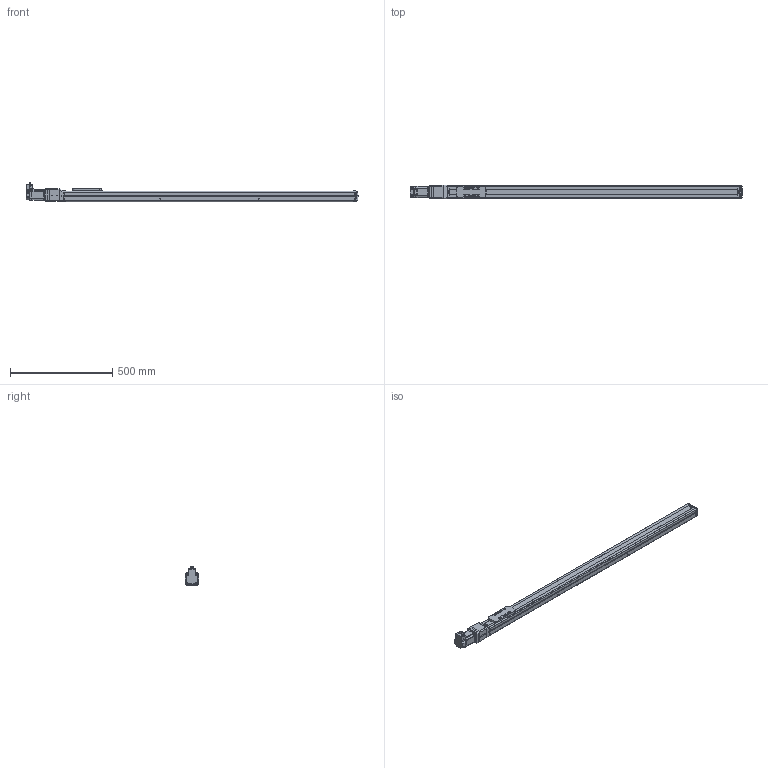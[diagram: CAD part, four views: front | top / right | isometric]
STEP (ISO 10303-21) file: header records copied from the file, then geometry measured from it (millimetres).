
FILE_DESCRIPTION(('FreeCAD Model'),'2;1');
FILE_NAME('Open CASCADE Shape Model','2023-08-02T11:21:58',('Author'),( ''),'Open CASCADE STEP processor 7.5','FreeCAD','Unknown');
FILE_SCHEMA(('AUTOMOTIVE_DESIGN { 1 0 10303 214 1 1 1 1 }'));
Length unit declared in the file: millimetre
Products named in the file (19): RSA1211; 1; 6; 5; 12; 2; 3; 9; 4; 11; 7; 13; 10; 8; Shapes; KSF6-20-1200-0-A0(0); KSF6---(Cover); KSF6-10-0050---(slider); KSF6-20-01200-A0 (01200A0No0)---(body)
Assembly tree (18 placements, depth 3):
  RSA1211
    1
    6
    5
    12
    2
    3
    9
    4
    11
    7
    13
    10
    8
    Shapes
    KSF6-20-1200-0-A0(0)
      KSF6---(Cover)
      KSF6-10-0050---(slider)
      KSF6-20-01200-A0 (01200A0No0)---(body)
Bounding box: 1623 x 66.4 x 93.17 mm (x, y, z)
Volume: 5069697.3 mm3; surface area: 509986.7 mm2
Topology: 17 solids, 17 shells, 1603 faces, 4266 edges, 2802 vertices
Faces by surface type: plane 1147, cylinder 318, cone 75, bspline 32, torus 27, revolution 4
Full cylindrical faces by diameter (mm): 2.113 x8, 2.6 x4, 3 x2, 3.242 x5, 4.134 x4, 4.5 x2, 5 x1, 5.5 x20, 6.5 x4, 9 x1, 9.5 x14, 12 x1, 15.5 x1, 17 x1, 44 x1, 50 x1
Entity records: 112560 total; most frequent: CARTESIAN_POINT 26492, DIRECTION 16015, LINE 10840, VECTOR 10840, ORIENTED_EDGE 8492, PCURVE 8492, DEFINITIONAL_REPRESENTATION 8492, EDGE_CURVE 4246
